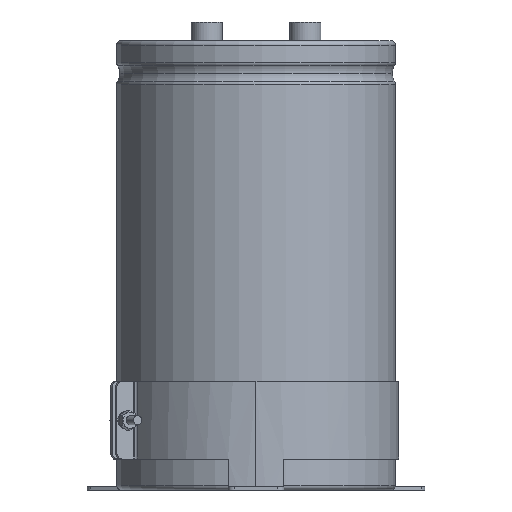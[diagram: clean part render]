
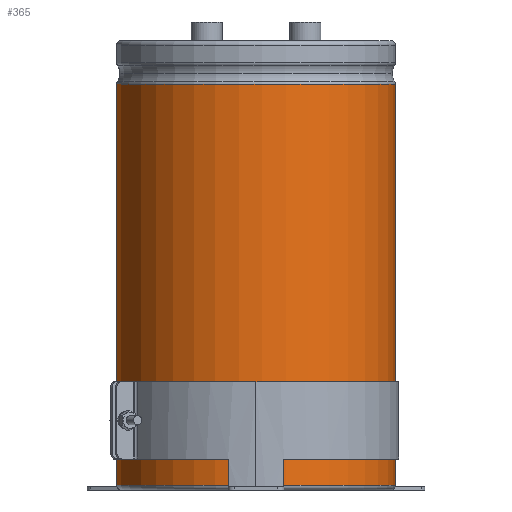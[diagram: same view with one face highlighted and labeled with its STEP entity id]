
A CAD part, left-side view. The second image highlights one B-rep face of the part: STEP entity #365.
In plain terms, the highlighted cylindrical face has radius 45 mm (diameter 90 mm), a partial arc.
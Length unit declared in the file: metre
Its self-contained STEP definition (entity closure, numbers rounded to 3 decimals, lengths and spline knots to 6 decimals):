
#365=ADVANCED_FACE('0:237',(#597),#598,.T.);
#597=FACE_OUTER_BOUND('',#1082,.T.);
#598=CYLINDRICAL_SURFACE('',#1083,0.045);
#1082=EDGE_LOOP('',(#2038,#2039,#2040,#2041));
#1083=AXIS2_PLACEMENT_3D('',#2042,#2043,#2044);
#2038=ORIENTED_EDGE('',*,*,#2995,.T.);
#2039=ORIENTED_EDGE('',*,*,#3004,.T.);
#2040=ORIENTED_EDGE('',*,*,#3006,.T.);
#2041=ORIENTED_EDGE('',*,*,#3007,.F.);
#2042=CARTESIAN_POINT('',(0.0,0.0,0.0));
#2043=DIRECTION('',(-0.0,0.0,1.0));
#2044=DIRECTION('',(0.0,1.0,0.0));
#2995=EDGE_CURVE('',#5626,#5634,#5635,.T.);
#3004=EDGE_CURVE('0:309',#5634,#5645,#5647,.T.);
#3006=EDGE_CURVE('0:312',#5645,#5649,#5650,.T.);
#3007=EDGE_CURVE('0:315',#5626,#5649,#5651,.T.);
#5626=VERTEX_POINT('',#6662);
#5634=VERTEX_POINT('',#6670);
#5635=LINE('',#6671,#6672);
#5645=VERTEX_POINT('',#6683);
#5647=CIRCLE('',#6685,0.045);
#5649=VERTEX_POINT('',#6687);
#5650=LINE('',#6688,#6689);
#5651=CIRCLE('',#6690,0.045);
#6662=CARTESIAN_POINT('',(0.,-0.045,0.0015));
#6670=CARTESIAN_POINT('',(0.,-0.045,0.1309));
#6671=CARTESIAN_POINT('',(0.,-0.045,0.0662));
#6672=VECTOR('',#8209,1.0);
#6683=CARTESIAN_POINT('',(-0.004,0.044822,0.1309));
#6685=AXIS2_PLACEMENT_3D('',#8226,#8227,#8228);
#6687=CARTESIAN_POINT('',(-0.004,0.044822,0.0015));
#6688=CARTESIAN_POINT('',(-0.004,0.044822,0.1309));
#6689=VECTOR('',#8229,0.001);
#6690=AXIS2_PLACEMENT_3D('',#8230,#8231,#8232);
#8209=DIRECTION('',(0.0,0.0,1.0));
#8226=CARTESIAN_POINT('',(0.0,0.0,0.1309));
#8227=DIRECTION('',(0.0,0.0,-1.0));
#8228=DIRECTION('',(0.0,1.0,0.0));
#8229=DIRECTION('',(0.0,0.0,-1.0));
#8230=CARTESIAN_POINT('',(0.0,0.0,0.0015));
#8231=DIRECTION('',(0.0,0.0,-1.0));
#8232=DIRECTION('',(0.0,1.0,0.0));
